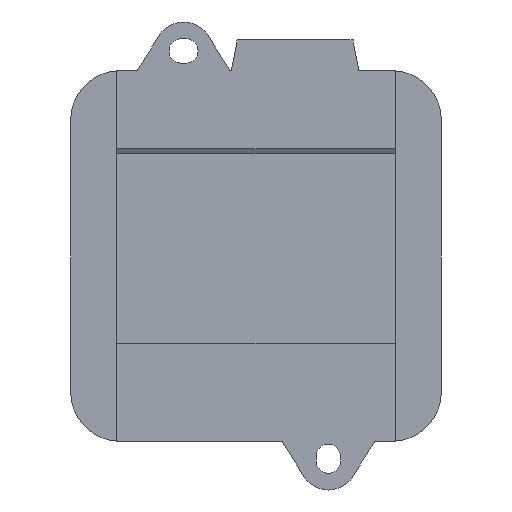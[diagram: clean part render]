
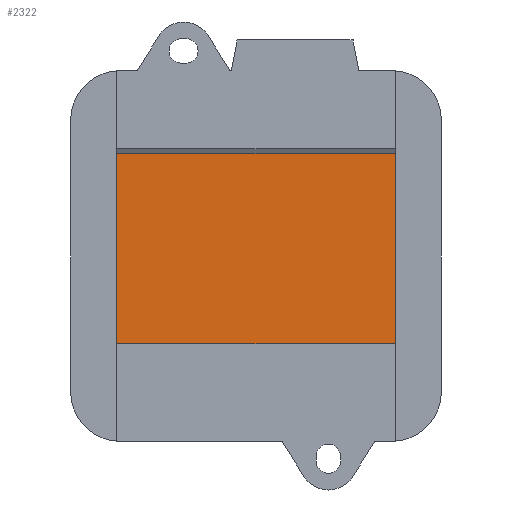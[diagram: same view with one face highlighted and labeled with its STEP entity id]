
A CAD part, front view. The second image highlights one B-rep face of the part: STEP entity #2322.
In plain terms, the highlighted planar face has unit normal (0, -1, 0).
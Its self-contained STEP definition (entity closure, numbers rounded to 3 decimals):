
#477 = CARTESIAN_POINT ( 'NONE',  ( 24., 4., -17.65 ) ) ;
#658 = DIRECTION ( 'NONE',  ( 0., 0., 1. ) ) ;
#850 = EDGE_CURVE ( 'NONE', #4632, #8208, #2523, .T. ) ;
#1057 = CARTESIAN_POINT ( 'NONE',  ( -24., 4., -17.65 ) ) ;
#1197 = ORIENTED_EDGE ( 'NONE', *, *, #850, .F. ) ;
#1201 = VECTOR ( 'NONE', #6434, 1000. ) ;
#1264 = ORIENTED_EDGE ( 'NONE', *, *, #8066, .T. ) ;
#1539 = CARTESIAN_POINT ( 'NONE',  ( 24., 4., 17.65 ) ) ;
#2004 = ORIENTED_EDGE ( 'NONE', *, *, #8173, .T. ) ;
#2302 = ORIENTED_EDGE ( 'NONE', *, *, #7614, .F. ) ;
#2320 = CARTESIAN_POINT ( 'NONE',  ( -24., 4., -17.65 ) ) ;
#2322 = ADVANCED_FACE ( 'NONE', ( #6695 ), #4452, .F. ) ;
#2523 = LINE ( 'NONE', #7609, #2558 ) ;
#2558 = VECTOR ( 'NONE', #8527, 1000. ) ;
#2747 = CARTESIAN_POINT ( 'NONE',  ( -24., 4., 32. ) ) ;
#3488 = LINE ( 'NONE', #8713, #1201 ) ;
#3706 = VERTEX_POINT ( 'NONE', #5850 ) ;
#4452 = PLANE ( 'NONE',  #5230 ) ;
#4632 = VERTEX_POINT ( 'NONE', #1539 ) ;
#4746 = DIRECTION ( 'NONE',  ( 1., 0., 0. ) ) ;
#5207 = DIRECTION ( 'NONE',  ( 0., 1., 0. ) ) ;
#5227 = VECTOR ( 'NONE', #7967, 1000. ) ;
#5230 = AXIS2_PLACEMENT_3D ( 'NONE', #8177, #5207, #658 ) ;
#5850 = CARTESIAN_POINT ( 'NONE',  ( -24., 4., 17.65 ) ) ;
#6160 = LINE ( 'NONE', #1057, #8155 ) ;
#6386 = EDGE_LOOP ( 'NONE', ( #2302, #2004, #1264, #1197 ) ) ;
#6434 = DIRECTION ( 'NONE',  ( 1., 0., 0. ) ) ;
#6695 = FACE_OUTER_BOUND ( 'NONE', #6386, .T. ) ;
#7609 = CARTESIAN_POINT ( 'NONE',  ( 24., 4., 32. ) ) ;
#7614 = EDGE_CURVE ( 'NONE', #3706, #4632, #3488, .T. ) ;
#7967 = DIRECTION ( 'NONE',  ( 0., 0., -1. ) ) ;
#8066 = EDGE_CURVE ( 'NONE', #8962, #8208, #6160, .T. ) ;
#8155 = VECTOR ( 'NONE', #4746, 1000. ) ;
#8173 = EDGE_CURVE ( 'NONE', #3706, #8962, #9194, .T. ) ;
#8177 = CARTESIAN_POINT ( 'NONE',  ( -24., 4., -17.65 ) ) ;
#8208 = VERTEX_POINT ( 'NONE', #477 ) ;
#8527 = DIRECTION ( 'NONE',  ( 0., 0., -1. ) ) ;
#8713 = CARTESIAN_POINT ( 'NONE',  ( -24., 4., 17.65 ) ) ;
#8962 = VERTEX_POINT ( 'NONE', #2320 ) ;
#9194 = LINE ( 'NONE', #2747, #5227 ) ;
